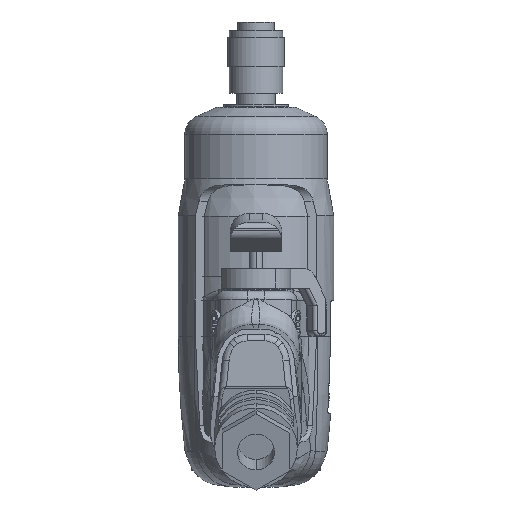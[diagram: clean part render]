
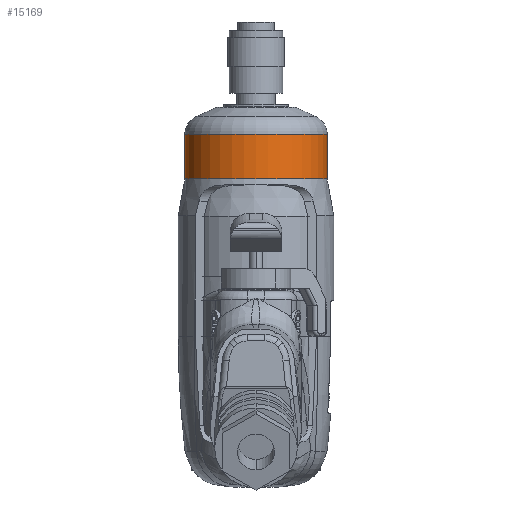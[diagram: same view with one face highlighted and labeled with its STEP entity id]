
A CAD part, front view. The second image highlights one B-rep face of the part: STEP entity #15169.
In plain terms, the highlighted cylindrical face has radius 22 mm (diameter 44 mm), a partial arc.
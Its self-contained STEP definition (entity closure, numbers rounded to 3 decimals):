
#14047 = VERTEX_POINT ( 'NONE', #71814 ) ;
#14060 = EDGE_CURVE ( 'NONE', #14047, #14070, #71797, .T. ) ;
#14067 = VERTEX_POINT ( 'NONE', #71842 ) ;
#14070 = VERTEX_POINT ( 'NONE', #71836 ) ;
#14076 = VERTEX_POINT ( 'NONE', #71828 ) ;
#14119 = EDGE_CURVE ( 'NONE', #14076, #14067, #71978, .T. ) ;
#15169 = ADVANCED_FACE ( 'NONE', ( #81726 ), #81706, .T. ) ;
#15170 = EDGE_LOOP ( 'NONE', ( #15171, #15172, #15174, #15175 ) ) ;
#15171 = ORIENTED_EDGE ( 'NONE', *, *, #14060, .F. ) ;
#15172 = ORIENTED_EDGE ( 'NONE', *, *, #15173, .T. ) ;
#15173 = EDGE_CURVE ( 'NONE', #14047, #14076, #81769, .T. ) ;
#15174 = ORIENTED_EDGE ( 'NONE', *, *, #14119, .T. ) ;
#15175 = ORIENTED_EDGE ( 'NONE', *, *, #15176, .T. ) ;
#15176 = EDGE_CURVE ( 'NONE', #14067, #14070, #81765, .T. ) ;
#71789 = DIRECTION ( 'NONE',  ( 0., 0., 1. ) ) ;
#71790 = VECTOR ( 'NONE', #71789, 1000. ) ;
#71791 = CARTESIAN_POINT ( 'NONE',  ( -22., 0., -17.7 ) ) ;
#71797 = LINE ( 'NONE', #71791, #71790 ) ;
#71814 = CARTESIAN_POINT ( 'NONE',  ( -22., 0., -40.682 ) ) ;
#71828 = CARTESIAN_POINT ( 'NONE',  ( 22., 0., -40.682 ) ) ;
#71836 = CARTESIAN_POINT ( 'NONE',  ( -22., 0., -26.911 ) ) ;
#71842 = CARTESIAN_POINT ( 'NONE',  ( 22., 0., -26.911 ) ) ;
#71975 = DIRECTION ( 'NONE',  ( 0., 0., 1. ) ) ;
#71976 = VECTOR ( 'NONE', #71975, 1000. ) ;
#71977 = CARTESIAN_POINT ( 'NONE',  ( 22., 0., -17.7 ) ) ;
#71978 = LINE ( 'NONE', #71977, #71976 ) ;
#81702 = DIRECTION ( 'NONE',  ( 1., 0., 0. ) ) ;
#81703 = DIRECTION ( 'NONE',  ( 0., 0., 1. ) ) ;
#81704 = AXIS2_PLACEMENT_3D ( 'NONE', #81731, #81703, #81702 ) ;
#81705 = CARTESIAN_POINT ( 'NONE',  ( 0., 0., -40.682 ) ) ;
#81706 = CYLINDRICAL_SURFACE ( 'NONE', #81704, 22. ) ;
#81726 = FACE_OUTER_BOUND ( 'NONE', #15170, .T. ) ;
#81731 = CARTESIAN_POINT ( 'NONE',  ( 0., 0., -17.7 ) ) ;
#81761 = DIRECTION ( 'NONE',  ( 1., 0., 0. ) ) ;
#81762 = DIRECTION ( 'NONE',  ( 0., 0., -1. ) ) ;
#81763 = CARTESIAN_POINT ( 'NONE',  ( 0., 0., -26.911 ) ) ;
#81764 = AXIS2_PLACEMENT_3D ( 'NONE', #81763, #81762, #81761 ) ;
#81765 = CIRCLE ( 'NONE', #81764, 22. ) ;
#81766 = DIRECTION ( 'NONE',  ( -1., 0., 0. ) ) ;
#81767 = DIRECTION ( 'NONE',  ( 0., 0., 1. ) ) ;
#81768 = AXIS2_PLACEMENT_3D ( 'NONE', #81705, #81767, #81766 ) ;
#81769 = CIRCLE ( 'NONE', #81768, 22. ) ;
